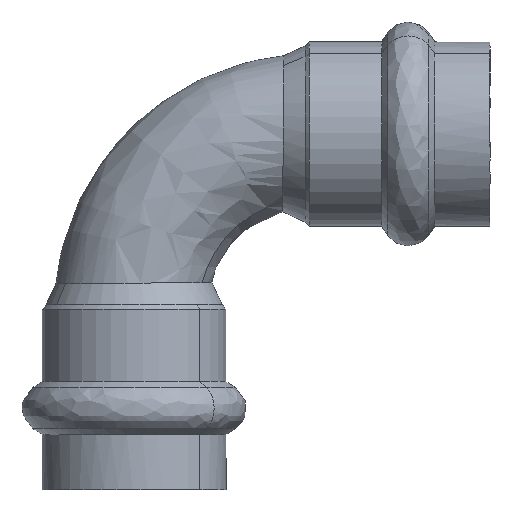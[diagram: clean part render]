
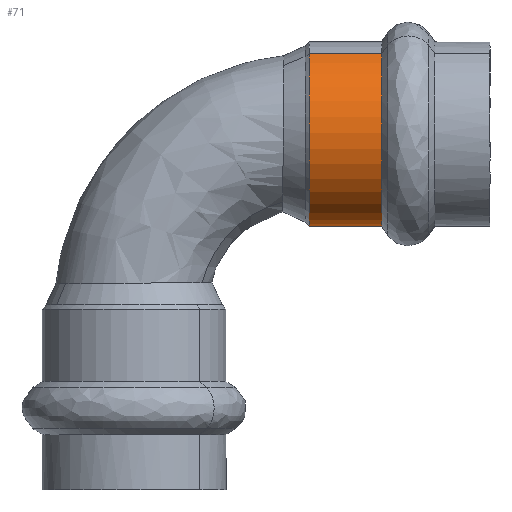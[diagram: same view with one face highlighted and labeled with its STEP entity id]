
A CAD part, front view. The second image highlights one B-rep face of the part: STEP entity #71.
In plain terms, the highlighted cylindrical face has radius 11.25 mm (diameter 22.5 mm), a partial arc.
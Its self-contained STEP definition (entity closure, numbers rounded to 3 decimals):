
#71=ADVANCED_FACE('',(#169),#170,.T.);
#169=FACE_OUTER_BOUND('',#467,.T.);
#170=CYLINDRICAL_SURFACE('',#468,11.25);
#467=EDGE_LOOP('',(#929,#930,#931,#932));
#468=AXIS2_PLACEMENT_3D('',#933,#934,#935);
#929=ORIENTED_EDGE('',*,*,#1230,.F.);
#930=ORIENTED_EDGE('',*,*,#1231,.F.);
#931=ORIENTED_EDGE('',*,*,#1232,.F.);
#932=ORIENTED_EDGE('',*,*,#1233,.T.);
#933=CARTESIAN_POINT('',(23.191,0.,0.));
#934=DIRECTION('',(-1.0,0.,0.));
#935=DIRECTION('',(0.,0.486,-0.874));
#1230=EDGE_CURVE('',#1385,#1373,#1386,.T.);
#1231=EDGE_CURVE('',#1387,#1385,#1388,.T.);
#1232=EDGE_CURVE('',#1379,#1387,#1389,.T.);
#1233=EDGE_CURVE('',#1379,#1373,#1390,.T.);
#1373=VERTEX_POINT('',#1702);
#1379=VERTEX_POINT('',#1709);
#1385=VERTEX_POINT('',#1716);
#1386=LINE('',#1717,#1718);
#1387=VERTEX_POINT('',#1719);
#1388=CIRCLE('',#1720,11.25);
#1389=LINE('',#1721,#1722);
#1390=CIRCLE('',#1723,11.25);
#1702=CARTESIAN_POINT('',(21.426,5.471,-9.83));
#1709=CARTESIAN_POINT('',(21.426,-5.471,9.83));
#1716=CARTESIAN_POINT('',(30.25,5.471,-9.83));
#1717=CARTESIAN_POINT('',(23.191,5.471,-9.83));
#1718=VECTOR('',#2312,1.0);
#1719=CARTESIAN_POINT('',(30.25,-5.471,9.83));
#1720=AXIS2_PLACEMENT_3D('',#2313,#2314,#2315);
#1721=CARTESIAN_POINT('',(23.191,-5.471,9.83));
#1722=VECTOR('',#2316,1.0);
#1723=AXIS2_PLACEMENT_3D('',#2317,#2318,#2319);
#2312=DIRECTION('',(-1.0,0.,0.));
#2313=CARTESIAN_POINT('',(30.25,0.,0.));
#2314=DIRECTION('',(1.0,0.,0.));
#2315=DIRECTION('',(0.,0.874,0.486));
#2316=DIRECTION('',(1.0,0.,0.));
#2317=CARTESIAN_POINT('',(21.426,0.,0.));
#2318=DIRECTION('',(1.0,0.,0.));
#2319=DIRECTION('',(0.,0.874,0.486));
